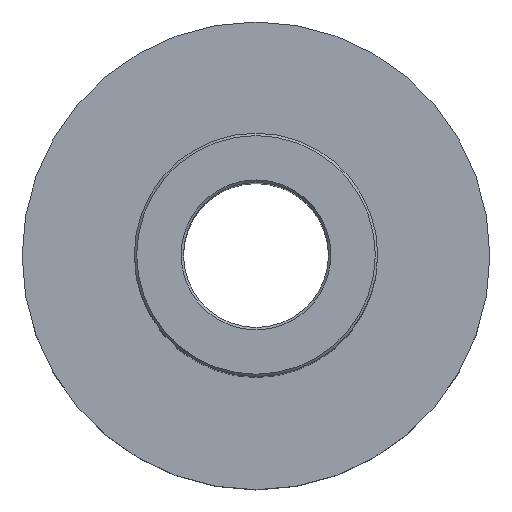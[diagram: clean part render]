
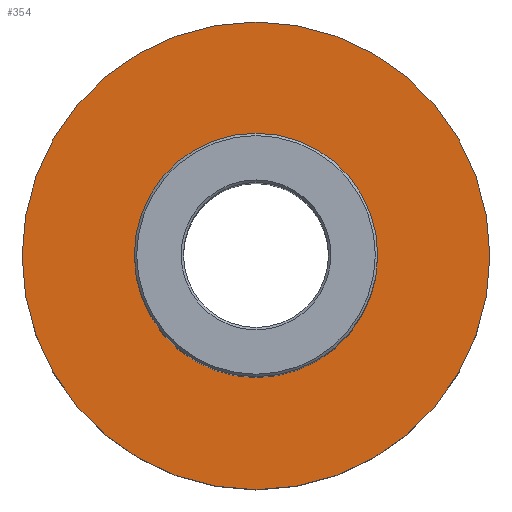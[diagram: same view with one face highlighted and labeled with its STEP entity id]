
A CAD part, top view. The second image highlights one B-rep face of the part: STEP entity #354.
In plain terms, the highlighted planar face has unit normal (0, 0, 1).
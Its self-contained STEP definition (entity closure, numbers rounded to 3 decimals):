
#180 = CYLINDRICAL_SURFACE('',#181,38.85);
#181 = AXIS2_PLACEMENT_3D('',#182,#183,#184);
#182 = CARTESIAN_POINT('',(0.,0.,0.));
#183 = DIRECTION('',(0.,0.,1.));
#184 = DIRECTION('',(1.,0.,-0.));
#251 = VERTEX_POINT('',#252);
#252 = CARTESIAN_POINT('',(38.85,0.,23.6));
#275 = EDGE_CURVE('',#251,#251,#276,.T.);
#276 = SURFACE_CURVE('',#277,(#282,#289),.PCURVE_S1.);
#277 = CIRCLE('',#278,38.85);
#278 = AXIS2_PLACEMENT_3D('',#279,#280,#281);
#279 = CARTESIAN_POINT('',(0.,0.,23.6));
#280 = DIRECTION('',(0.,0.,1.));
#281 = DIRECTION('',(1.,0.,-0.));
#282 = PCURVE('',#180,#283);
#283 = DEFINITIONAL_REPRESENTATION('',(#284),#288);
#284 = LINE('',#285,#286);
#285 = CARTESIAN_POINT('',(0.,23.6));
#286 = VECTOR('',#287,1.);
#287 = DIRECTION('',(1.,0.));
#288 = ( GEOMETRIC_REPRESENTATION_CONTEXT(2) 
PARAMETRIC_REPRESENTATION_CONTEXT() REPRESENTATION_CONTEXT('2D SPACE',''
  ) );
#289 = PCURVE('',#290,#295);
#290 = PLANE('',#291);
#291 = AXIS2_PLACEMENT_3D('',#292,#293,#294);
#292 = CARTESIAN_POINT('',(0.,0.,23.6));
#293 = DIRECTION('',(0.,0.,1.));
#294 = DIRECTION('',(1.,0.,-0.));
#295 = DEFINITIONAL_REPRESENTATION('',(#296),#300);
#296 = CIRCLE('',#297,38.85);
#297 = AXIS2_PLACEMENT_2D('',#298,#299);
#298 = CARTESIAN_POINT('',(0.,0.));
#299 = DIRECTION('',(1.,0.));
#300 = ( GEOMETRIC_REPRESENTATION_CONTEXT(2) 
PARAMETRIC_REPRESENTATION_CONTEXT() REPRESENTATION_CONTEXT('2D SPACE',''
  ) );
#354 = ADVANCED_FACE('',(#355,#358),#290,.T.);
#355 = FACE_BOUND('',#356,.T.);
#356 = EDGE_LOOP('',(#357));
#357 = ORIENTED_EDGE('',*,*,#275,.T.);
#358 = FACE_BOUND('',#359,.T.);
#359 = EDGE_LOOP('',(#360));
#360 = ORIENTED_EDGE('',*,*,#361,.F.);
#361 = EDGE_CURVE('',#362,#362,#364,.T.);
#362 = VERTEX_POINT('',#363);
#363 = CARTESIAN_POINT('',(20.215,0.,23.6));
#364 = SURFACE_CURVE('',#365,(#370,#377),.PCURVE_S1.);
#365 = CIRCLE('',#366,20.215);
#366 = AXIS2_PLACEMENT_3D('',#367,#368,#369);
#367 = CARTESIAN_POINT('',(0.,0.,23.6));
#368 = DIRECTION('',(0.,0.,1.));
#369 = DIRECTION('',(1.,0.,-0.));
#370 = PCURVE('',#290,#371);
#371 = DEFINITIONAL_REPRESENTATION('',(#372),#376);
#372 = CIRCLE('',#373,20.215);
#373 = AXIS2_PLACEMENT_2D('',#374,#375);
#374 = CARTESIAN_POINT('',(0.,0.));
#375 = DIRECTION('',(1.,0.));
#376 = ( GEOMETRIC_REPRESENTATION_CONTEXT(2) 
PARAMETRIC_REPRESENTATION_CONTEXT() REPRESENTATION_CONTEXT('2D SPACE',''
  ) );
#377 = PCURVE('',#378,#383);
#378 = CYLINDRICAL_SURFACE('',#379,20.215);
#379 = AXIS2_PLACEMENT_3D('',#380,#381,#382);
#380 = CARTESIAN_POINT('',(0.,0.,23.6));
#381 = DIRECTION('',(0.,0.,1.));
#382 = DIRECTION('',(1.,0.,-0.));
#383 = DEFINITIONAL_REPRESENTATION('',(#384),#388);
#384 = LINE('',#385,#386);
#385 = CARTESIAN_POINT('',(0.,0.));
#386 = VECTOR('',#387,1.);
#387 = DIRECTION('',(1.,0.));
#388 = ( GEOMETRIC_REPRESENTATION_CONTEXT(2) 
PARAMETRIC_REPRESENTATION_CONTEXT() REPRESENTATION_CONTEXT('2D SPACE',''
  ) );
